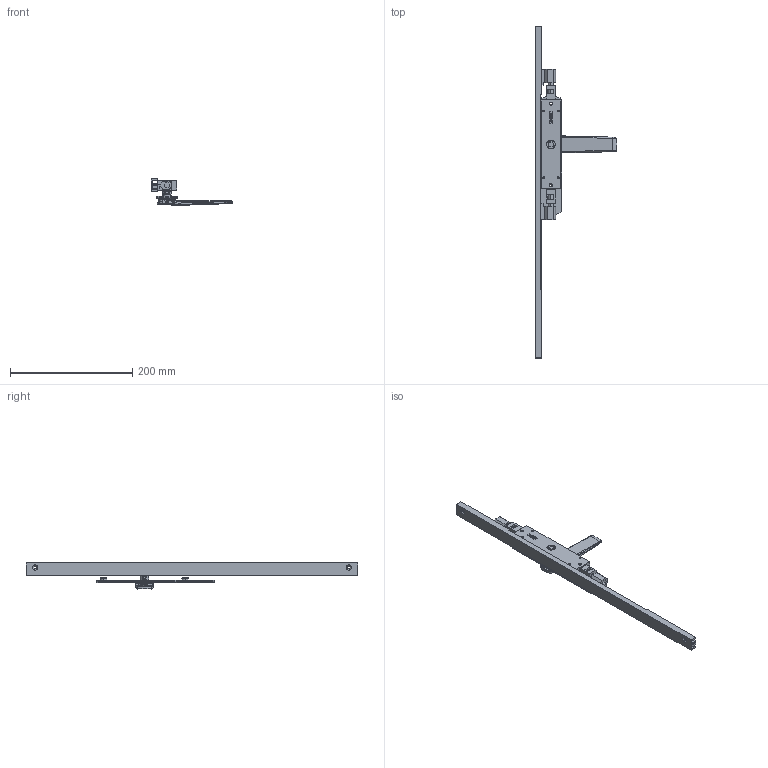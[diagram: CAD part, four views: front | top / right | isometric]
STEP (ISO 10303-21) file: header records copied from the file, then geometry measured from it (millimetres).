
FILE_DESCRIPTION (( 'STEP AP214' ), '1' );
FILE_NAME ('TPL-W-APC-601-U 28Oct2024.STEP', '2024-10-28T01:41:17', ( '' ), ( '' ), 'SwSTEP 2.0', 'SolidWorks 2023', '' );
FILE_SCHEMA (( 'AUTOMOTIVE_DESIGN' ));
Length unit declared in the file: millimetre
Products named in the file (18): Adapter C - simplfied^TPL-W-APC-101 18Oct2024; Copy of TPGen2 handle non-keyed short zinc - simplified^TPL-W-APC-101 18Oct2024_Left; Copy of LKC-531-A Rod TPLGen2 machined bolt end^TPL-W-APC-101 18Oct2024_LKC-531-A-M003; Copy of LKC-516 Escutcheon plate unkeyed 195mm long zinc - simplified^Copy of TPGen2 handle non-keyed short zinc - simplified_TPL-W-APC-101 18Oct2024; Copy of TPLGen2 push rod - simplified^Copy of TPLGen2 lock body non-keyed assembly_TPL-W-APC-101 18Oct2024_Female thread M10; Copy of TPLGen2 lock body non-keyed^Copy of TPLGen2 lock body non-keyed assembly_TPL-W-APC-101 18Oct2024; Copy of COV-115-C Cover C suit TPLGen2 standard range AU^TPL-W-APC-101 18Oct2024; Copy of TPLGen2 lock body non-keyed assembly^TPL-W-APC-101 18Oct2024_Bolts retracted; Copy of COV-115-A Cover A suit TPLGen2 standard range AU with hinge holes^TPL-W-APC-101 18Oct2024_2870mm; Adapter D - simplfied^TPL-W-APC-101 18Oct2024; TPL-W-APC-601-U 28Oct2024; Copy of LKC-584 Pivot body zinc - simplified^Copy of TPGen2 handle non-keyed short zinc - simplified_TPL-W-APC-101 18Oct2024; Copy of LKC-586 Spindle square 8mm with M4 hole^Copy of TPGen2 handle non-keyed short zinc - simplified_TPL-W-APC-101 18Oct2024_25mm; Copy of LKC-505 Swing handle zinc - simplified^Copy of TPGen2 handle non-keyed short zinc - simplified_TPL-W-APC-101 18Oct2024; Copy of COV-115-B Cover B suit TPLGen2 standard range AU with hinge holes^TPL-W-APC-101 18Oct2024_2870mm; Bolt.step; Bottom twinpoint transmission rod wood system^TPL-W-APC-101 18Oct2024_Standard Range 2891.7mm; Copy of LKC-585 Rotator body zinc^Copy of TPGen2 handle non-keyed short zinc - simplified_TPL-W-APC-101 18Oct2024
Assembly tree (15 placements, depth 3):
  Copy of COV-115-A Cover A suit TPLGen2 standard range AU with hinge holes^TPL-W-APC-101 18Oct2024_2870mm
  TPL-W-APC-601-U 28Oct2024
    Copy of TPLGen2 lock body non-keyed assembly^TPL-W-APC-101 18Oct2024_Bolts retracted
      Copy of TPLGen2 lock body non-keyed^Copy of TPLGen2 lock body non-keyed assembly_TPL-W-APC-101 18Oct2024
      Copy of TPLGen2 push rod - simplified^Copy of TPLGen2 lock body non-keyed assembly_TPL-W-APC-101 18Oct2024_Female thread M10  x2
    Copy of TPGen2 handle non-keyed short zinc - simplified^TPL-W-APC-101 18Oct2024_Left
      Copy of LKC-516 Escutcheon plate unkeyed 195mm long zinc - simplified^Copy of TPGen2 handle non-keyed short zinc - simplified_TPL-W-APC-101 18Oct2024
      Copy of LKC-505 Swing handle zinc - simplified^Copy of TPGen2 handle non-keyed short zinc - simplified_TPL-W-APC-101 18Oct2024
      Copy of LKC-585 Rotator body zinc^Copy of TPGen2 handle non-keyed short zinc - simplified_TPL-W-APC-101 18Oct2024
      Copy of LKC-586 Spindle square 8mm with M4 hole^Copy of TPGen2 handle non-keyed short zinc - simplified_TPL-W-APC-101 18Oct2024_25mm
      Copy of LKC-584 Pivot body zinc - simplified^Copy of TPGen2 handle non-keyed short zinc - simplified_TPL-W-APC-101 18Oct2024
    Copy of COV-115-C Cover C suit TPLGen2 standard range AU^TPL-W-APC-101 18Oct2024
    Bottom twinpoint transmission rod wood system^TPL-W-APC-101 18Oct2024_Standard Range 2891.7mm
    Copy of LKC-531-A Rod TPLGen2 machined bolt end^TPL-W-APC-101 18Oct2024_LKC-531-A-M003
    Adapter D - simplfied^TPL-W-APC-101 18Oct2024
    Adapter C - simplfied^TPL-W-APC-101 18Oct2024
  Copy of COV-115-B Cover B suit TPLGen2 standard range AU with hinge holes^TPL-W-APC-101 18Oct2024_2870mm
  Bolt.step
Bounding box: 134.12 x 544 x 42.86 mm (x, y, z)
Volume: 202262.4 mm3; surface area: 113646.4 mm2
Topology: 13 solids, 13 shells, 849 faces, 2094 edges, 1300 vertices
Faces by surface type: plane 306, bspline 241, cylinder 182, cone 66, torus 46, sphere 8
Entity records: 30613 total; most frequent: CARTESIAN_POINT 12551, ORIENTED_EDGE 3996, DIRECTION 3180, EDGE_CURVE 1998, VERTEX_POINT 1240, AXIS2_PLACEMENT_3D 1147, EDGE_LOOP 896, VECTOR 886
